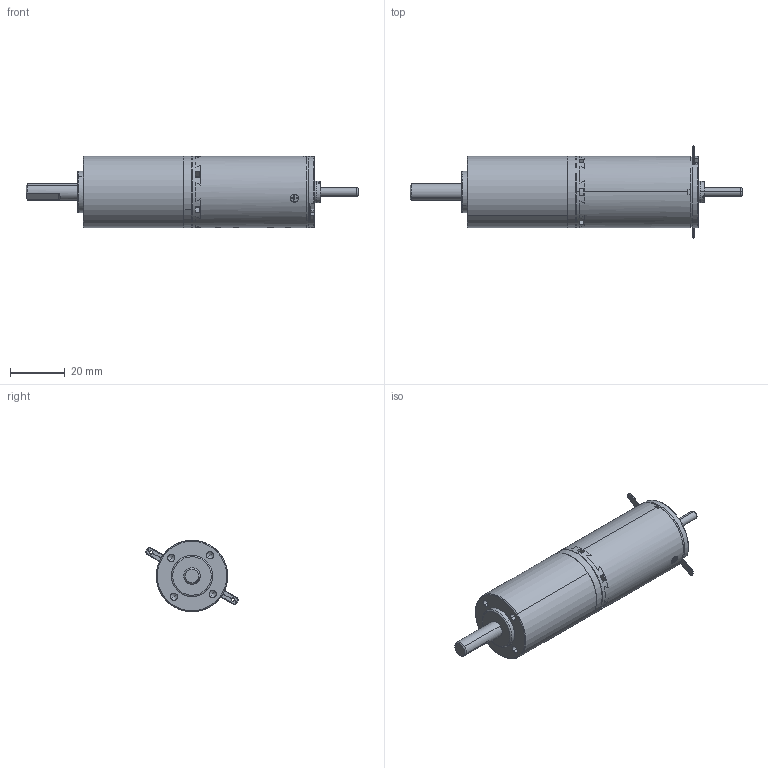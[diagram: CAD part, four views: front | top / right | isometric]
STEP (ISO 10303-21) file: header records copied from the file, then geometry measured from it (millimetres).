
FILE_DESCRIPTION (( 'STEP AP214' ), '1' );
FILE_NAME ('AMAX26CLLHP + GP26A-3 étages.STEP', '2014-11-18T14:59:13', ( '' ), ( '' ), 'SwSTEP 2.0', 'SolidWorks 2013', '' );
FILE_SCHEMA (( 'AUTOMOTIVE_DESIGN' ));
Length unit declared in the file: millimetre
Products named in the file (4): 1005018; GP26A-3st; A-max26-110206; AMAX26CLLHP + GP26A-3 étages
Assembly tree (3 placements, depth 2):
  AMAX26CLLHP + GP26A-3 étages
    A-max26-110206
    GP26A-3st
    1005018
Bounding box: 121.1 x 33.86 x 26 mm (x, y, z)
Volume: 35296.8 mm3; surface area: 14497.5 mm2
Topology: 3 solids, 3 shells, 542 faces, 1464 edges, 951 vertices
Faces by surface type: plane 265, cylinder 193, cone 75, torus 7, bspline 2
Entity records: 17921 total; most frequent: CARTESIAN_POINT 4217, ORIENTED_EDGE 2912, DIRECTION 2802, EDGE_CURVE 1456, AXIS2_PLACEMENT_3D 1032, VERTEX_POINT 951, VECTOR 738, LINE 738
